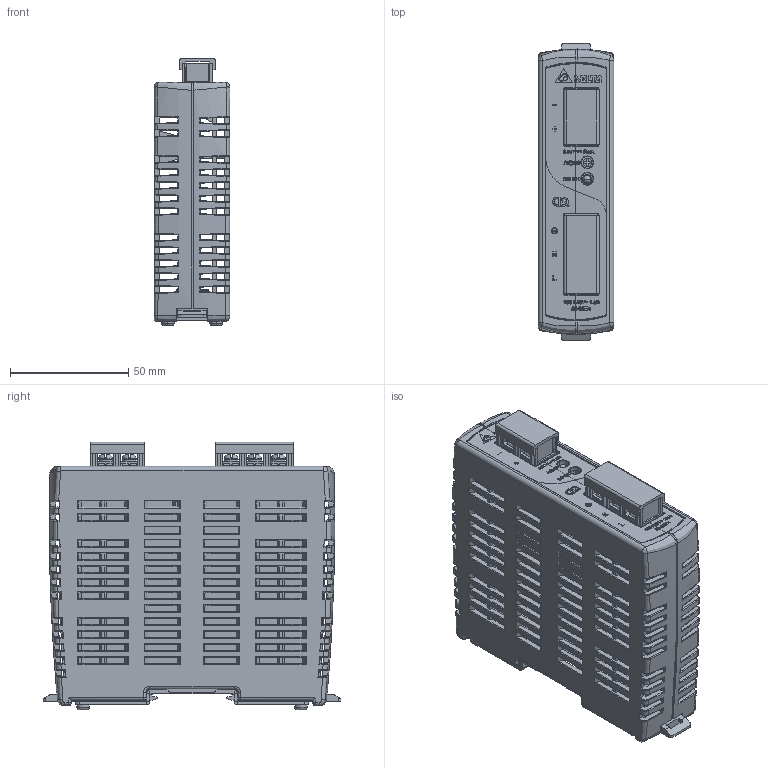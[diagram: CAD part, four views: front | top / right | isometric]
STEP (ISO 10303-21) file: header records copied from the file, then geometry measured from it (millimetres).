
FILE_DESCRIPTION((''),'2;1');
FILE_NAME('DRP024V060W1AZ_ASM','2012-04-20T',('Manop.Pr'),(''),'PRO/ENGINEER BY PARAMETRIC TECHNOLOGY CORPORATION, 2010180','PRO/ENGINEER BY PARAMETRIC TECHNOLOGY CORPORATION, 2010180','');
FILE_SCHEMA(('CONFIG_CONTROL_DESIGN','SHAPE_APPEARANCE_LAYERS_GROUPS'));
Products named in the file (25): 331406470000; 331406480000; 326802420202; 326801960202; 3244081900; 3460083501; 347DT00900; SPRING_DEC14_1_A04_3; ASSY_LACH_ASM; 2938600702_PWB; LED; VR; ASSY_PWB_ASM; DT_5C_B84W_03_2; TERMINAL_5C_2; PIN1X1; COVER_5C_B14_02; SCREW_CON_M3_5; DT_5C_B84W_2_ASM; DT_5C_B84W_03; TERMINAL_5C; COVER_5C_B14_03; DT_5C_B84W_3_ASM; 3109015000; DRP024V060W1AZ_ASM
Assembly tree (39 placements, depth 3):
  DRP024V060W1AZ_ASM
    331406470000
    331406480000
    326802420202
    326801960202
    3244081900
    ASSY_LACH_ASM
      3460083501
      347DT00900  x2
      SPRING_DEC14_1_A04_3  x2
    ASSY_PWB_ASM
      2938600702_PWB
      LED
      VR
    DT_5C_B84W_2_ASM
      DT_5C_B84W_03_2
      TERMINAL_5C_2  x2
      PIN1X1  x2
      COVER_5C_B14_02
      SCREW_CON_M3_5  x2
    DT_5C_B84W_3_ASM
      DT_5C_B84W_03
      TERMINAL_5C  x3
      PIN1X1  x2
      COVER_5C_B14_03
      SCREW_CON_M3_5  x3
    3109015000  x4
Bounding box: 32 x 125.8 x 112.93 mm (x, y, z)
Volume: 100879.9 mm3; surface area: 139076.1 mm2
Topology: 36 solids, 36 shells, 5078 faces, 13344 edges, 8326 vertices
Faces by surface type: plane 3088, cylinder 1057, bspline 555, extrusion 250, cone 64, torus 51, sphere 13
Entity records: 181626 total; most frequent: CARTESIAN_POINT 54034, ORIENTED_EDGE 22030, DIRECTION 16958, EDGE_CURVE 11015, PRESENTATION_STYLE_ASSIGNMENT 9718, STYLED_ITEM 9644, CURVE_STYLE 9630, VECTOR 7380
